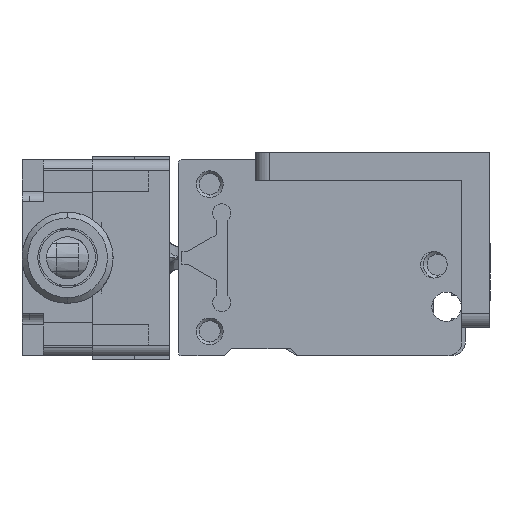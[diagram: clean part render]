
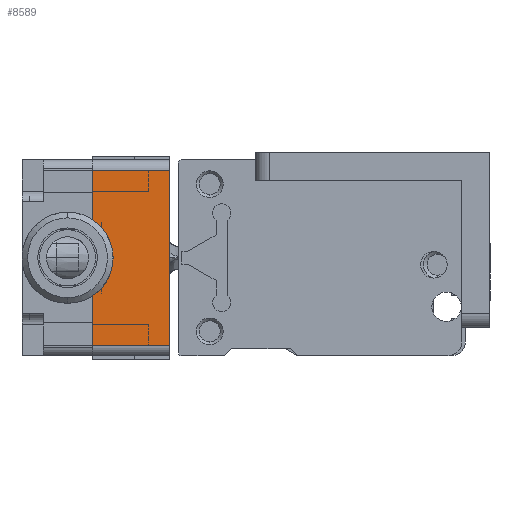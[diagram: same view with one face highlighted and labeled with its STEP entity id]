
A CAD part, left-side view. The second image highlights one B-rep face of the part: STEP entity #8589.
In plain terms, the highlighted planar face has unit normal (-1, 0, 0).
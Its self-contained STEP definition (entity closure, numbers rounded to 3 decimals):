
#3310 = DIRECTION ( 'NONE',  ( 0., 0., 1. ) ) ;
#3311 = CARTESIAN_POINT ( 'NONE',  ( -0.373, -56.718, 15.08 ) ) ;
#3312 = DIRECTION ( 'NONE',  ( 0., -1., 0. ) ) ;
#3313 = CARTESIAN_POINT ( 'NONE',  ( -0.373, -45.718, 12.5 ) ) ;
#3318 = DIRECTION ( 'NONE',  ( 0., 0., 1. ) ) ;
#3319 = CARTESIAN_POINT ( 'NONE',  ( -0.373, -45.718, 15.08 ) ) ;
#3320 = DIRECTION ( 'NONE',  ( 0., 1., 0. ) ) ;
#3321 = CARTESIAN_POINT ( 'NONE',  ( -0.373, -56.938, -12.5 ) ) ;
#3882 = LINE ( 'NONE', #3321, #3883 ) ;
#3883 = VECTOR ( 'NONE', #3320, 1000. ) ;
#3884 = LINE ( 'NONE', #3319, #3885 ) ;
#3885 = VECTOR ( 'NONE', #3318, 1000. ) ;
#3889 = LINE ( 'NONE', #3313, #3890 ) ;
#3890 = VECTOR ( 'NONE', #3312, 1000. ) ;
#3891 = LINE ( 'NONE', #3311, #3892 ) ;
#3892 = VECTOR ( 'NONE', #3310, 1000. ) ;
#4489 = FACE_OUTER_BOUND ( 'NONE', #14285, .T. ) ;
#7379 = EDGE_CURVE ( 'NONE', #18626, #18528, #3882, .T. ) ;
#7380 = EDGE_CURVE ( 'NONE', #18528, #18531, #3884, .T. ) ;
#7383 = EDGE_CURVE ( 'NONE', #18531, #18613, #3889, .T. ) ;
#7384 = EDGE_CURVE ( 'NONE', #18626, #18613, #3891, .T. ) ;
#8589 = ADVANCED_FACE ( 'NONE', ( #4489 ), #14914, .F. ) ;
#10003 = AXIS2_PLACEMENT_3D ( 'NONE', #14913, #14916, #14917 ) ;
#13265 = CARTESIAN_POINT ( 'NONE',  ( -0.373, -45.718, -12.5 ) ) ;
#13268 = CARTESIAN_POINT ( 'NONE',  ( -0.373, -45.718, 12.5 ) ) ;
#13350 = CARTESIAN_POINT ( 'NONE',  ( -0.373, -56.718, 12.5 ) ) ;
#13363 = CARTESIAN_POINT ( 'NONE',  ( -0.373, -56.718, -12.5 ) ) ;
#13723 = ORIENTED_EDGE ( 'NONE', *, *, #7379, .F. ) ;
#13724 = ORIENTED_EDGE ( 'NONE', *, *, #7380, .F. ) ;
#13725 = ORIENTED_EDGE ( 'NONE', *, *, #7383, .F. ) ;
#13726 = ORIENTED_EDGE ( 'NONE', *, *, #7384, .T. ) ;
#14285 = EDGE_LOOP ( 'NONE', ( #13726, #13725, #13724, #13723 ) ) ;
#14913 = CARTESIAN_POINT ( 'NONE',  ( -0.373, -56.938, 13. ) ) ;
#14914 = PLANE ( 'NONE',  #10003 ) ;
#14916 = DIRECTION ( 'NONE',  ( 1., 0., 0. ) ) ;
#14917 = DIRECTION ( 'NONE',  ( 0., 0., -1. ) ) ;
#18528 = VERTEX_POINT ( 'NONE', #13265 ) ;
#18531 = VERTEX_POINT ( 'NONE', #13268 ) ;
#18613 = VERTEX_POINT ( 'NONE', #13350 ) ;
#18626 = VERTEX_POINT ( 'NONE', #13363 ) ;
